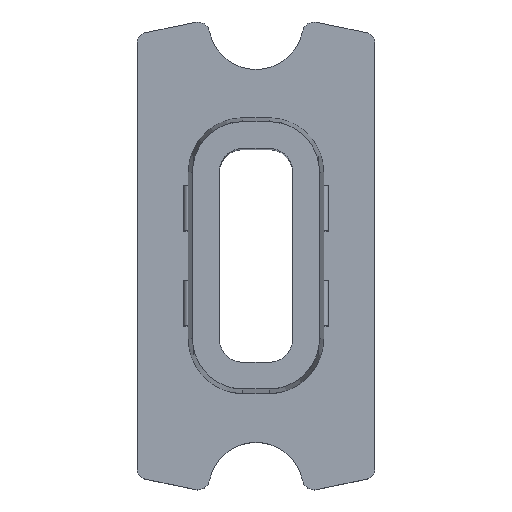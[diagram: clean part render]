
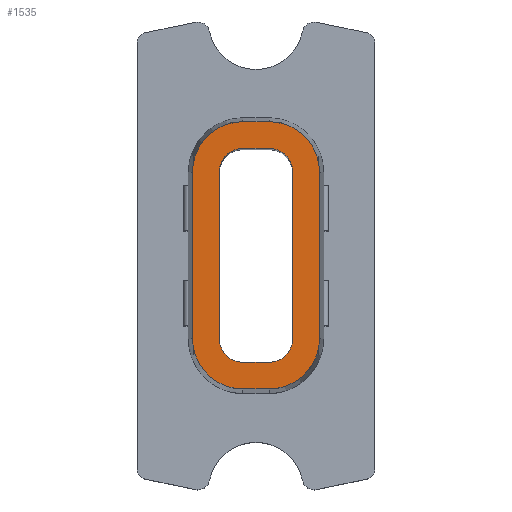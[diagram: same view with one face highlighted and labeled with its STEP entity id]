
A CAD part, top view. The second image highlights one B-rep face of the part: STEP entity #1535.
In plain terms, the highlighted planar face has unit normal (0, 0, 1).
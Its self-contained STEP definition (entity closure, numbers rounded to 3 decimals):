
#12 = DIRECTION ( 'NONE',  ( 1., 0., 0. ) ) ;
#30 = EDGE_LOOP ( 'NONE', ( #2337, #2340, #1691, #1690, #1060, #2742, #352, #1296 ) ) ;
#76 = FACE_BOUND ( 'NONE', #1435, .T. ) ;
#162 = DIRECTION ( 'NONE',  ( 0., 0., 1. ) ) ;
#219 = CARTESIAN_POINT ( 'NONE',  ( -2.675, 3.5, 5. ) ) ;
#223 = AXIS2_PLACEMENT_3D ( 'NONE', #2848, #1724, #805 ) ;
#230 = DIRECTION ( 'NONE',  ( 1., 0., 0. ) ) ;
#243 = CARTESIAN_POINT ( 'NONE',  ( 0.55, -3.5, 5. ) ) ;
#246 = ORIENTED_EDGE ( 'NONE', *, *, #1428, .F. ) ;
#284 = VERTEX_POINT ( 'NONE', #2365 ) ;
#302 = AXIS2_PLACEMENT_3D ( 'NONE', #370, #1730, #1720 ) ;
#352 = ORIENTED_EDGE ( 'NONE', *, *, #1890, .T. ) ;
#357 = AXIS2_PLACEMENT_3D ( 'NONE', #243, #664, #1312 ) ;
#370 = CARTESIAN_POINT ( 'NONE',  ( -0.55, 3.5, 5. ) ) ;
#373 = DIRECTION ( 'NONE',  ( 1., 0., 0. ) ) ;
#378 = CARTESIAN_POINT ( 'NONE',  ( -0.55, 5.625, 5. ) ) ;
#413 = VERTEX_POINT ( 'NONE', #1749 ) ;
#474 = CARTESIAN_POINT ( 'NONE',  ( -0.55, -5.625, 5. ) ) ;
#517 = CARTESIAN_POINT ( 'NONE',  ( 1.55, 3.5, 5. ) ) ;
#525 = CARTESIAN_POINT ( 'NONE',  ( 0.55, -5.625, 5. ) ) ;
#546 = DIRECTION ( 'NONE',  ( 1., 0., 0. ) ) ;
#572 = VECTOR ( 'NONE', #833, 1000. ) ;
#576 = DIRECTION ( 'NONE',  ( 1., 0., 0. ) ) ;
#603 = LINE ( 'NONE', #1264, #2812 ) ;
#605 = CARTESIAN_POINT ( 'NONE',  ( 0.55, 4.5, 5. ) ) ;
#608 = LINE ( 'NONE', #1049, #2649 ) ;
#644 = DIRECTION ( 'NONE',  ( -1., 0., 0. ) ) ;
#646 = EDGE_CURVE ( 'NONE', #1292, #1418, #1739, .T. ) ;
#658 = AXIS2_PLACEMENT_3D ( 'NONE', #1498, #162, #373 ) ;
#664 = DIRECTION ( 'NONE',  ( 0., 0., 1. ) ) ;
#673 = VERTEX_POINT ( 'NONE', #2059 ) ;
#755 = VERTEX_POINT ( 'NONE', #517 ) ;
#774 = EDGE_CURVE ( 'NONE', #413, #1292, #1167, .T. ) ;
#777 = AXIS2_PLACEMENT_3D ( 'NONE', #2520, #1177, #230 ) ;
#805 = DIRECTION ( 'NONE',  ( 1., 0., 0. ) ) ;
#817 = ORIENTED_EDGE ( 'NONE', *, *, #1260, .F. ) ;
#818 = VECTOR ( 'NONE', #12, 1000. ) ;
#833 = DIRECTION ( 'NONE',  ( 1., 0., 0. ) ) ;
#844 = DIRECTION ( 'NONE',  ( 0., -1., 0. ) ) ;
#866 = DIRECTION ( 'NONE',  ( 0., 0., 1. ) ) ;
#900 = CARTESIAN_POINT ( 'NONE',  ( 2.675, 3.5, 5. ) ) ;
#920 = CIRCLE ( 'NONE', #1914, 1. ) ;
#965 = DIRECTION ( 'NONE',  ( 0., 0., 1. ) ) ;
#985 = EDGE_CURVE ( 'NONE', #2223, #2599, #603, .T. ) ;
#987 = EDGE_CURVE ( 'NONE', #2187, #2284, #1922, .T. ) ;
#1022 = VERTEX_POINT ( 'NONE', #605 ) ;
#1025 = LINE ( 'NONE', #378, #1062 ) ;
#1026 = VECTOR ( 'NONE', #2788, 1000. ) ;
#1041 = CARTESIAN_POINT ( 'NONE',  ( 2.675, -3.5, 5. ) ) ;
#1049 = CARTESIAN_POINT ( 'NONE',  ( -2.675, 3.5, 5. ) ) ;
#1060 = ORIENTED_EDGE ( 'NONE', *, *, #1793, .T. ) ;
#1062 = VECTOR ( 'NONE', #644, 1000. ) ;
#1064 = EDGE_CURVE ( 'NONE', #673, #1630, #1025, .T. ) ;
#1154 = CARTESIAN_POINT ( 'NONE',  ( -1.55, -3.5, 5. ) ) ;
#1162 = VERTEX_POINT ( 'NONE', #1561 ) ;
#1167 = CIRCLE ( 'NONE', #1860, 2.125 ) ;
#1169 = DIRECTION ( 'NONE',  ( 0., 1., 0. ) ) ;
#1172 = ORIENTED_EDGE ( 'NONE', *, *, #1593, .F. ) ;
#1177 = DIRECTION ( 'NONE',  ( 0., 0., 1. ) ) ;
#1182 = CARTESIAN_POINT ( 'NONE',  ( -0.55, -5.625, 5. ) ) ;
#1195 = DIRECTION ( 'NONE',  ( 0., 0., 1. ) ) ;
#1206 = VECTOR ( 'NONE', #1169, 1000. ) ;
#1211 = VECTOR ( 'NONE', #2472, 1000. ) ;
#1247 = VERTEX_POINT ( 'NONE', #219 ) ;
#1260 = EDGE_CURVE ( 'NONE', #2002, #755, #1449, .T. ) ;
#1264 = CARTESIAN_POINT ( 'NONE',  ( -1.55, 3.5, 5. ) ) ;
#1277 = ORIENTED_EDGE ( 'NONE', *, *, #985, .F. ) ;
#1292 = VERTEX_POINT ( 'NONE', #1182 ) ;
#1296 = ORIENTED_EDGE ( 'NONE', *, *, #1064, .T. ) ;
#1312 = DIRECTION ( 'NONE',  ( 1., 0., 0. ) ) ;
#1352 = CARTESIAN_POINT ( 'NONE',  ( 1.55, 3.5, 5. ) ) ;
#1409 = EDGE_CURVE ( 'NONE', #2284, #2002, #2749, .T. ) ;
#1418 = VERTEX_POINT ( 'NONE', #525 ) ;
#1428 = EDGE_CURVE ( 'NONE', #1022, #284, #1708, .T. ) ;
#1435 = EDGE_LOOP ( 'NONE', ( #2369, #246, #2297, #817, #2039, #2793, #1172, #1277 ) ) ;
#1449 = LINE ( 'NONE', #1352, #1206 ) ;
#1458 = PLANE ( 'NONE',  #223 ) ;
#1464 = CARTESIAN_POINT ( 'NONE',  ( -0.55, 5.625, 5. ) ) ;
#1498 = CARTESIAN_POINT ( 'NONE',  ( -0.55, 3.5, 5. ) ) ;
#1505 = CIRCLE ( 'NONE', #777, 2.125 ) ;
#1515 = LINE ( 'NONE', #900, #1211 ) ;
#1535 = ADVANCED_FACE ( 'NONE', ( #76, #1814 ), #1458, .T. ) ;
#1549 = VERTEX_POINT ( 'NONE', #1041 ) ;
#1561 = CARTESIAN_POINT ( 'NONE',  ( 2.675, 3.5, 5. ) ) ;
#1593 = EDGE_CURVE ( 'NONE', #2599, #2187, #920, .T. ) ;
#1630 = VERTEX_POINT ( 'NONE', #1464 ) ;
#1635 = EDGE_CURVE ( 'NONE', #1630, #1247, #2136, .T. ) ;
#1690 = ORIENTED_EDGE ( 'NONE', *, *, #646, .T. ) ;
#1691 = ORIENTED_EDGE ( 'NONE', *, *, #774, .T. ) ;
#1708 = LINE ( 'NONE', #1886, #1026 ) ;
#1720 = DIRECTION ( 'NONE',  ( -1., 0., 0. ) ) ;
#1724 = DIRECTION ( 'NONE',  ( 0., 0., 1. ) ) ;
#1730 = DIRECTION ( 'NONE',  ( 0., 0., 1. ) ) ;
#1734 = DIRECTION ( 'NONE',  ( 0., -1., 0. ) ) ;
#1739 = LINE ( 'NONE', #474, #818 ) ;
#1749 = CARTESIAN_POINT ( 'NONE',  ( -2.675, -3.5, 5. ) ) ;
#1793 = EDGE_CURVE ( 'NONE', #1418, #1549, #2778, .T. ) ;
#1814 = FACE_OUTER_BOUND ( 'NONE', #30, .T. ) ;
#1860 = AXIS2_PLACEMENT_3D ( 'NONE', #1877, #965, #2108 ) ;
#1877 = CARTESIAN_POINT ( 'NONE',  ( -0.55, -3.5, 5. ) ) ;
#1886 = CARTESIAN_POINT ( 'NONE',  ( -0.55, 4.5, 5. ) ) ;
#1890 = EDGE_CURVE ( 'NONE', #1162, #673, #1505, .T. ) ;
#1898 = CARTESIAN_POINT ( 'NONE',  ( 1.55, -3.5, 5. ) ) ;
#1914 = AXIS2_PLACEMENT_3D ( 'NONE', #2819, #2176, #576 ) ;
#1922 = LINE ( 'NONE', #2638, #572 ) ;
#2002 = VERTEX_POINT ( 'NONE', #1898 ) ;
#2026 = CARTESIAN_POINT ( 'NONE',  ( 0.55, -4.5, 5. ) ) ;
#2039 = ORIENTED_EDGE ( 'NONE', *, *, #1409, .F. ) ;
#2059 = CARTESIAN_POINT ( 'NONE',  ( 0.55, 5.625, 5. ) ) ;
#2108 = DIRECTION ( 'NONE',  ( 1., 0., 0. ) ) ;
#2120 = CARTESIAN_POINT ( 'NONE',  ( 0.55, -3.5, 5. ) ) ;
#2136 = CIRCLE ( 'NONE', #658, 2.125 ) ;
#2149 = EDGE_CURVE ( 'NONE', #1247, #413, #608, .T. ) ;
#2176 = DIRECTION ( 'NONE',  ( 0., 0., 1. ) ) ;
#2187 = VERTEX_POINT ( 'NONE', #2556 ) ;
#2215 = DIRECTION ( 'NONE',  ( 1., 0., 0. ) ) ;
#2223 = VERTEX_POINT ( 'NONE', #2791 ) ;
#2284 = VERTEX_POINT ( 'NONE', #2026 ) ;
#2297 = ORIENTED_EDGE ( 'NONE', *, *, #2904, .F. ) ;
#2337 = ORIENTED_EDGE ( 'NONE', *, *, #1635, .T. ) ;
#2340 = ORIENTED_EDGE ( 'NONE', *, *, #2149, .T. ) ;
#2365 = CARTESIAN_POINT ( 'NONE',  ( -0.55, 4.5, 5. ) ) ;
#2369 = ORIENTED_EDGE ( 'NONE', *, *, #2805, .F. ) ;
#2370 = CIRCLE ( 'NONE', #302, 1. ) ;
#2398 = EDGE_CURVE ( 'NONE', #1549, #1162, #1515, .T. ) ;
#2463 = CARTESIAN_POINT ( 'NONE',  ( 0.55, 3.5, 5. ) ) ;
#2472 = DIRECTION ( 'NONE',  ( 0., 1., 0. ) ) ;
#2520 = CARTESIAN_POINT ( 'NONE',  ( 0.55, 3.5, 5. ) ) ;
#2533 = CIRCLE ( 'NONE', #2655, 1. ) ;
#2556 = CARTESIAN_POINT ( 'NONE',  ( -0.55, -4.5, 5. ) ) ;
#2599 = VERTEX_POINT ( 'NONE', #1154 ) ;
#2638 = CARTESIAN_POINT ( 'NONE',  ( -0.55, -4.5, 5. ) ) ;
#2649 = VECTOR ( 'NONE', #1734, 1000. ) ;
#2655 = AXIS2_PLACEMENT_3D ( 'NONE', #2463, #866, #2215 ) ;
#2709 = AXIS2_PLACEMENT_3D ( 'NONE', #2120, #1195, #546 ) ;
#2742 = ORIENTED_EDGE ( 'NONE', *, *, #2398, .T. ) ;
#2749 = CIRCLE ( 'NONE', #2709, 1. ) ;
#2778 = CIRCLE ( 'NONE', #357, 2.125 ) ;
#2788 = DIRECTION ( 'NONE',  ( -1., 0., 0. ) ) ;
#2791 = CARTESIAN_POINT ( 'NONE',  ( -1.55, 3.5, 5. ) ) ;
#2793 = ORIENTED_EDGE ( 'NONE', *, *, #987, .F. ) ;
#2805 = EDGE_CURVE ( 'NONE', #284, #2223, #2370, .T. ) ;
#2812 = VECTOR ( 'NONE', #844, 1000. ) ;
#2819 = CARTESIAN_POINT ( 'NONE',  ( -0.55, -3.5, 5. ) ) ;
#2848 = CARTESIAN_POINT ( 'NONE',  ( -0.55, 3.5, 5. ) ) ;
#2904 = EDGE_CURVE ( 'NONE', #755, #1022, #2533, .T. ) ;
